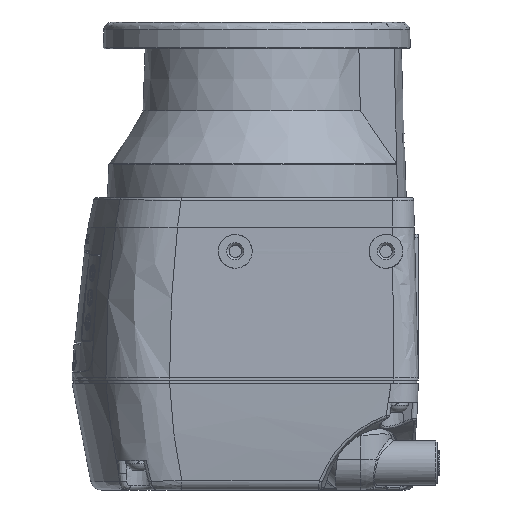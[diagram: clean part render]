
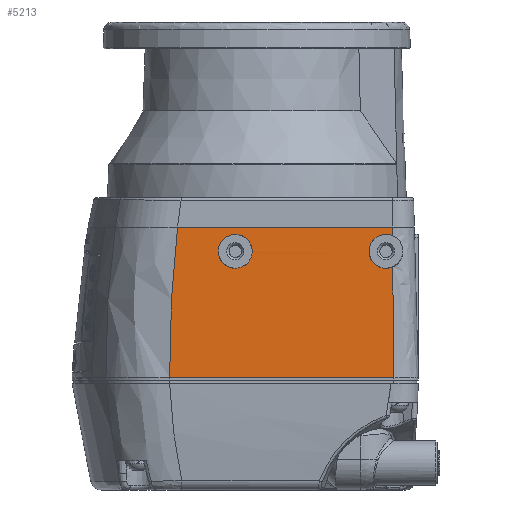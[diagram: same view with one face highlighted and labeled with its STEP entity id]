
A CAD part, front view. The second image highlights one B-rep face of the part: STEP entity #5213.
In plain terms, the highlighted planar face has unit normal (0, -1, 0.004) by its records, which use the part's own axes.
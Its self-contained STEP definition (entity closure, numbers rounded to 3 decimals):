
#651=ELLIPSE('',#20910,5.5,5.5);
#652=ELLIPSE('',#20911,5.5,5.5);
#1205=LINE('',#33996,#2080);
#1258=LINE('',#34917,#2137);
#2080=VECTOR('',#23455,1.);
#2137=VECTOR('',#23592,1.);
#3020=B_SPLINE_CURVE_WITH_KNOTS('',3,(#34809,#34810,#34811,#34812),
 .UNSPECIFIED.,.F.,.F.,(4,4),(0.,1.),.UNSPECIFIED.);
#3023=B_SPLINE_CURVE_WITH_KNOTS('',3,(#34851,#34852,#34853,#34854),
 .UNSPECIFIED.,.F.,.F.,(4,4),(0.,1.),.UNSPECIFIED.);
#3024=B_SPLINE_CURVE_WITH_KNOTS('',3,(#34919,#34920,#34921,#34922),
 .UNSPECIFIED.,.F.,.F.,(4,4),(0.,1.),.UNSPECIFIED.);
#5213=ADVANCED_FACE('',(#6822,#6823),#6246,.F.);
#6246=PLANE('',#20912);
#6822=FACE_BOUND('',#7804,.T.);
#6823=FACE_BOUND('',#7805,.T.);
#7804=EDGE_LOOP('',(#10648));
#7805=EDGE_LOOP('',(#10649,#10650,#10651,#10652,#10653,#10654));
#10648=ORIENTED_EDGE('',*,*,#17554,.T.);
#10649=ORIENTED_EDGE('',*,*,#17555,.F.);
#10650=ORIENTED_EDGE('',*,*,#17556,.F.);
#10651=ORIENTED_EDGE('',*,*,#17451,.T.);
#10652=ORIENTED_EDGE('',*,*,#17553,.F.);
#10653=ORIENTED_EDGE('',*,*,#17557,.F.);
#10654=ORIENTED_EDGE('',*,*,#17550,.F.);
#15279=VERTEX_POINT('',#33995);
#15280=VERTEX_POINT('',#33997);
#15345=VERTEX_POINT('',#34808);
#15346=VERTEX_POINT('',#34813);
#15347=VERTEX_POINT('',#34850);
#15348=VERTEX_POINT('',#34916);
#15349=VERTEX_POINT('',#34918);
#17451=EDGE_CURVE('',#15280,#15279,#1205,.T.);
#17550=EDGE_CURVE('',#15345,#15346,#3020,.T.);
#17553=EDGE_CURVE('',#15347,#15279,#3023,.T.);
#17554=EDGE_CURVE('',#15348,#15348,#651,.T.);
#17555=EDGE_CURVE('',#15349,#15345,#1258,.T.);
#17556=EDGE_CURVE('',#15280,#15349,#3024,.T.);
#17557=EDGE_CURVE('',#15346,#15347,#652,.T.);
#20910=AXIS2_PLACEMENT_3D('',#34915,#23590,#23591);
#20911=AXIS2_PLACEMENT_3D('',#34923,#23593,#23594);
#20912=AXIS2_PLACEMENT_3D('',#34924,#23595,#23596);
#23455=DIRECTION('',(1.,0.,0.));
#23590=DIRECTION('',(0.,1.,-0.004));
#23591=DIRECTION('',(0.,-0.004,-1.));
#23592=DIRECTION('',(1.,0.,0.));
#23593=DIRECTION('',(0.,-1.,0.004));
#23594=DIRECTION('',(0.,-0.004,-1.));
#23595=DIRECTION('',(0.,1.,-0.004));
#23596=DIRECTION('',(1.,0.,0.));
#33995=CARTESIAN_POINT('',(-29.519,-132.221,-31.916));
#33996=CARTESIAN_POINT('',(-102.364,-132.221,-31.916));
#33997=CARTESIAN_POINT('',(-102.364,-132.221,-31.916));
#34808=CARTESIAN_POINT('',(-29.909,-132.008,16.984));
#34809=CARTESIAN_POINT('',(-29.91,-132.007,17.084));
#34810=CARTESIAN_POINT('',(-29.792,-132.078,0.751));
#34811=CARTESIAN_POINT('',(-29.661,-132.15,-15.583));
#34812=CARTESIAN_POINT('',(-29.519,-132.221,-31.916));
#34813=CARTESIAN_POINT('',(-29.889,-132.019,14.25));
#34850=CARTESIAN_POINT('',(-29.814,-132.064,4.151));
#34851=CARTESIAN_POINT('',(-29.91,-132.007,17.084));
#34852=CARTESIAN_POINT('',(-29.792,-132.078,0.751));
#34853=CARTESIAN_POINT('',(-29.661,-132.15,-15.583));
#34854=CARTESIAN_POINT('',(-29.519,-132.221,-31.916));
#34915=CARTESIAN_POINT('',(-81.031,-132.042,9.184));
#34916=CARTESIAN_POINT('',(-81.031,-132.066,3.684));
#34917=CARTESIAN_POINT('',(-21.531,-132.008,16.984));
#34918=CARTESIAN_POINT('',(-99.788,-132.008,16.984));
#34919=CARTESIAN_POINT('',(-102.364,-132.221,-31.916));
#34920=CARTESIAN_POINT('',(-102.364,-132.149,-15.43));
#34921=CARTESIAN_POINT('',(-101.791,-132.082,-0.082));
#34922=CARTESIAN_POINT('',(-99.777,-132.007,17.084));
#34923=CARTESIAN_POINT('',(-32.031,-132.042,9.184));
#34924=CARTESIAN_POINT('',(-21.531,-132.221,-31.916));
